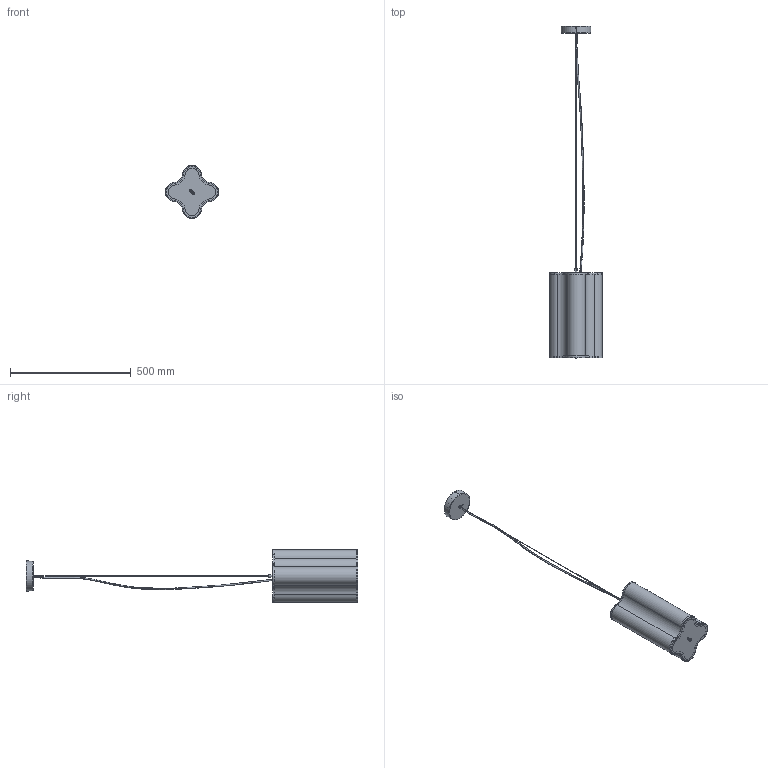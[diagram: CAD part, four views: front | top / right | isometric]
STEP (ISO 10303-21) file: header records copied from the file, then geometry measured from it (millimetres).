
FILE_DESCRIPTION (( 'STEP AP203' ), '1' );
FILE_NAME ('EQ.S035_EQUIS SUSPENSIÓ 22X35CM_FORMA.STEP', '2025-07-08T11:51:45', ( '' ), ( '' ), 'SwSTEP 2.0', 'SolidWorks 2013', '' );
FILE_SCHEMA (( 'CONFIG_CONTROL_DESIGN' ));
Length unit declared in the file: millimetre
Products named in the file (15): TP473_EQUIS_pantalla 350mm; ME006_EQUIS-TAPA SUPERIOR ALUMINI_220x220; AR071_FLORÓ ø120x30 2xM4 sistema USA; EQ.S035_EQUIS SUSPENSIÓ 22X35CM_FORMA; GI197_SUP. FIXACIÓ FLORÓ 120; DIN7380 M4x10; AG019_M4x8; GU025_ TUERCA SUSPENSOR (BLACK); XJ001_Xapa logo inox_10,5x28,5; ME005_EQUIS-BASE INFERIOR ALUMINI 220x220; GU023_CABLE ACER Ø1.5-bola Ø5 (BLACK); KO014_CABLE TRANSP.992mm CURVADO; GU026_FINALET SUSPENSOR CABLE Ø1.5 (BLACK); KO060_Passacable PVC; GU024 - SUSPENSOR M10 Cable Ø1.5 (BLACK)
Assembly tree (15 placements, depth 2):
  EQ.S035_EQUIS SUSPENSIÓ 22X35CM_FORMA
    TP473_EQUIS_pantalla 350mm
    ME006_EQUIS-TAPA SUPERIOR ALUMINI_220x220
    ME005_EQUIS-BASE INFERIOR ALUMINI 220x220
    XJ001_Xapa logo inox_10,5x28,5
    DIN7380 M4x10
    GU026_FINALET SUSPENSOR CABLE Ø1.5 (BLACK)
    GU023_CABLE ACER Ø1.5-bola Ø5 (BLACK)
    GU025_ TUERCA SUSPENSOR (BLACK)
    KO060_Passacable PVC
    AR071_FLORÓ ø120x30 2xM4 sistema USA
    GU024 - SUSPENSOR M10 Cable Ø1.5 (BLACK)
    KO014_CABLE TRANSP.992mm CURVADO
    GI197_SUP. FIXACIÓ FLORÓ 120
    AG019_M4x8  x2
Bounding box: 220 x 1373.75 x 219.85 mm (x, y, z)
Volume: 1108313.9 mm3; surface area: 699221.7 mm2
Topology: 15 solids, 15 shells, 450 faces, 1091 edges, 699 vertices
Faces by surface type: cylinder 187, plane 157, bspline 44, cone 40, torus 20, sphere 2
Entity records: 15357 total; most frequent: CARTESIAN_POINT 3329, DIRECTION 2226, ORIENTED_EDGE 2122, EDGE_CURVE 1061, AXIS2_PLACEMENT_3D 862, VERTEX_POINT 681, EDGE_LOOP 506, LINE 502
